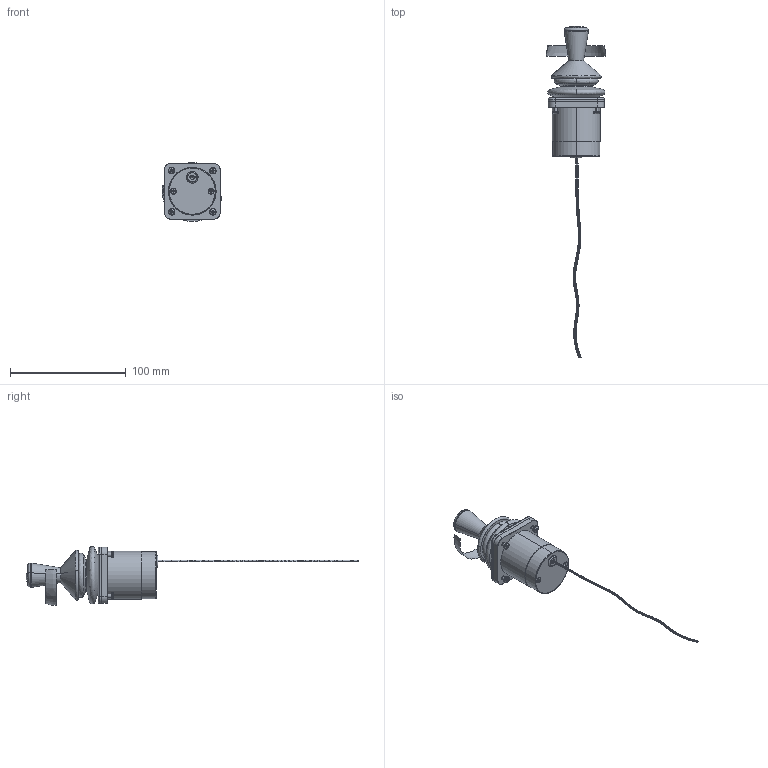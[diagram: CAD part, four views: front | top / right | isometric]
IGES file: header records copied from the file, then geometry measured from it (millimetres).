
Start section: SolidWorks IGES file using analytic representation for surfaces
Global section: file name: C:\Dokumente und Einstellungen\marcoa\Desktop\TRY10-2511111.IGS; native system: SolidWorks 2007; preprocessor: SolidWorks 2007; author: marcoa; date: 111130.102344; units: millimetre
Bounding box: 51.82 x 286.96 x 51 mm (x, y, z)
Surface area: 51126.7 mm2 (no closed solid volume)
Topology: 0 solids, 0 shells, 1305 faces, 13071 edges, 13067 vertices
Faces by surface type: bspline 1043, revolution 262
